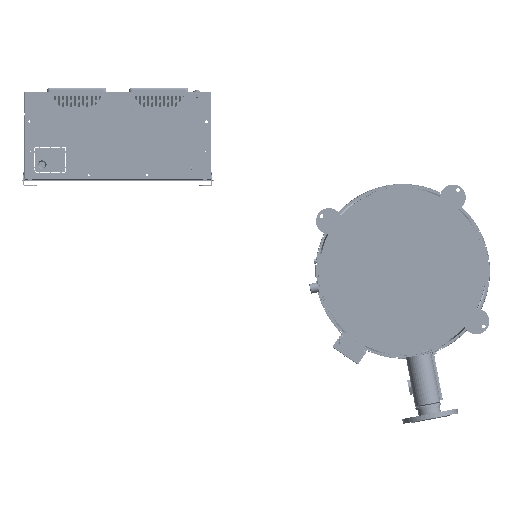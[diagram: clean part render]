
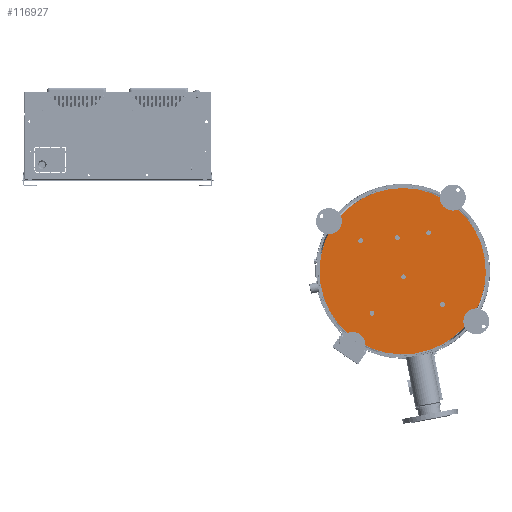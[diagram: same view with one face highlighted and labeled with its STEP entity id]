
A CAD part, front view. The second image highlights one B-rep face of the part: STEP entity #116927.
In plain terms, the highlighted planar face has unit normal (0, -1, 0).
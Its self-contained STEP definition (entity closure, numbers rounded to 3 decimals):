
#4999=FACE_BOUND('',#39986,.T.);
#5000=FACE_BOUND('',#39987,.T.);
#5001=FACE_BOUND('',#39988,.T.);
#5002=FACE_BOUND('',#39989,.T.);
#5003=FACE_BOUND('',#39990,.T.);
#5004=FACE_BOUND('',#39991,.T.);
#7541=PLANE('',#126281);
#16641=LINE('',#188814,#27003);
#16642=LINE('',#188817,#27004);
#27003=VECTOR('',#153690,10.);
#27004=VECTOR('',#153693,10.);
#32955=FACE_OUTER_BOUND('',#39985,.T.);
#39985=EDGE_LOOP('',(#99701,#99702,#99703));
#39986=EDGE_LOOP('',(#99704));
#39987=EDGE_LOOP('',(#99705,#99706));
#39988=EDGE_LOOP('',(#99707,#99708));
#39989=EDGE_LOOP('',(#99709,#99710));
#39990=EDGE_LOOP('',(#99711,#99712));
#39991=EDGE_LOOP('',(#99713,#99714));
#45697=CIRCLE('',#126282,288.);
#45698=CIRCLE('',#126283,8.25);
#45699=CIRCLE('',#126284,8.25);
#45700=CIRCLE('',#126285,8.25);
#45701=CIRCLE('',#126286,8.25);
#45702=CIRCLE('',#126287,8.25);
#45703=CIRCLE('',#126288,8.25);
#45704=CIRCLE('',#126289,8.25);
#45705=CIRCLE('',#126290,8.25);
#45706=CIRCLE('',#126291,8.25);
#45707=CIRCLE('',#126292,8.25);
#45708=CIRCLE('',#126293,8.25);
#56217=VERTEX_POINT('',#188812);
#56218=VERTEX_POINT('',#188813);
#56219=VERTEX_POINT('',#188815);
#56220=VERTEX_POINT('',#188818);
#56221=VERTEX_POINT('',#188820);
#56222=VERTEX_POINT('',#188821);
#56223=VERTEX_POINT('',#188824);
#56224=VERTEX_POINT('',#188825);
#56225=VERTEX_POINT('',#188828);
#56226=VERTEX_POINT('',#188829);
#56227=VERTEX_POINT('',#188832);
#56228=VERTEX_POINT('',#188833);
#56229=VERTEX_POINT('',#188836);
#56230=VERTEX_POINT('',#188837);
#72100=EDGE_CURVE('',#56217,#56218,#16641,.T.);
#72101=EDGE_CURVE('',#56218,#56219,#45697,.T.);
#72102=EDGE_CURVE('',#56219,#56217,#16642,.T.);
#72103=EDGE_CURVE('',#56220,#56220,#45698,.T.);
#72104=EDGE_CURVE('',#56221,#56222,#45699,.T.);
#72105=EDGE_CURVE('',#56222,#56221,#45700,.T.);
#72106=EDGE_CURVE('',#56223,#56224,#45701,.T.);
#72107=EDGE_CURVE('',#56224,#56223,#45702,.T.);
#72108=EDGE_CURVE('',#56225,#56226,#45703,.T.);
#72109=EDGE_CURVE('',#56226,#56225,#45704,.T.);
#72110=EDGE_CURVE('',#56227,#56228,#45705,.T.);
#72111=EDGE_CURVE('',#56228,#56227,#45706,.T.);
#72112=EDGE_CURVE('',#56229,#56230,#45707,.T.);
#72113=EDGE_CURVE('',#56230,#56229,#45708,.T.);
#99701=ORIENTED_EDGE('',*,*,#72100,.T.);
#99702=ORIENTED_EDGE('',*,*,#72101,.T.);
#99703=ORIENTED_EDGE('',*,*,#72102,.T.);
#99704=ORIENTED_EDGE('',*,*,#72103,.T.);
#99705=ORIENTED_EDGE('',*,*,#72104,.T.);
#99706=ORIENTED_EDGE('',*,*,#72105,.T.);
#99707=ORIENTED_EDGE('',*,*,#72106,.T.);
#99708=ORIENTED_EDGE('',*,*,#72107,.T.);
#99709=ORIENTED_EDGE('',*,*,#72108,.T.);
#99710=ORIENTED_EDGE('',*,*,#72109,.T.);
#99711=ORIENTED_EDGE('',*,*,#72110,.T.);
#99712=ORIENTED_EDGE('',*,*,#72111,.T.);
#99713=ORIENTED_EDGE('',*,*,#72112,.T.);
#99714=ORIENTED_EDGE('',*,*,#72113,.T.);
#116927=ADVANCED_FACE('',(#32955,#4999,#5000,#5001,#5002,#5003,#5004),#7541,
 .T.);
#126281=AXIS2_PLACEMENT_3D('',#188811,#153688,#153689);
#126282=AXIS2_PLACEMENT_3D('',#188816,#153691,#153692);
#126283=AXIS2_PLACEMENT_3D('',#188819,#153694,#153695);
#126284=AXIS2_PLACEMENT_3D('',#188822,#153696,#153697);
#126285=AXIS2_PLACEMENT_3D('',#188823,#153698,#153699);
#126286=AXIS2_PLACEMENT_3D('',#188826,#153700,#153701);
#126287=AXIS2_PLACEMENT_3D('',#188827,#153702,#153703);
#126288=AXIS2_PLACEMENT_3D('',#188830,#153704,#153705);
#126289=AXIS2_PLACEMENT_3D('',#188831,#153706,#153707);
#126290=AXIS2_PLACEMENT_3D('',#188834,#153708,#153709);
#126291=AXIS2_PLACEMENT_3D('',#188835,#153710,#153711);
#126292=AXIS2_PLACEMENT_3D('',#188838,#153712,#153713);
#126293=AXIS2_PLACEMENT_3D('',#188839,#153714,#153715);
#153688=DIRECTION('center_axis',(0.,-1.,0.));
#153689=DIRECTION('ref_axis',(0.988,0.,0.155));
#153690=DIRECTION('',(0.589,0.,0.808));
#153691=DIRECTION('center_axis',(0.,-1.,0.));
#153692=DIRECTION('ref_axis',(0.988,0.,0.155));
#153693=DIRECTION('',(-0.808,0.,0.589));
#153694=DIRECTION('center_axis',(0.,1.,0.));
#153695=DIRECTION('ref_axis',(-0.988,0.,-0.155));
#153696=DIRECTION('center_axis',(0.,1.,0.));
#153697=DIRECTION('ref_axis',(-0.988,0.,-0.155));
#153698=DIRECTION('center_axis',(0.,1.,0.));
#153699=DIRECTION('ref_axis',(-0.988,0.,-0.155));
#153700=DIRECTION('center_axis',(0.,1.,0.));
#153701=DIRECTION('ref_axis',(-0.988,0.,-0.155));
#153702=DIRECTION('center_axis',(0.,1.,0.));
#153703=DIRECTION('ref_axis',(-0.988,0.,-0.155));
#153704=DIRECTION('center_axis',(0.,1.,0.));
#153705=DIRECTION('ref_axis',(-0.988,0.,-0.155));
#153706=DIRECTION('center_axis',(0.,1.,0.));
#153707=DIRECTION('ref_axis',(-0.988,0.,-0.155));
#153708=DIRECTION('center_axis',(0.,1.,0.));
#153709=DIRECTION('ref_axis',(-0.988,0.,-0.155));
#153710=DIRECTION('center_axis',(0.,1.,0.));
#153711=DIRECTION('ref_axis',(-0.988,0.,-0.155));
#153712=DIRECTION('center_axis',(0.,1.,0.));
#153713=DIRECTION('ref_axis',(-0.988,0.,-0.155));
#153714=DIRECTION('center_axis',(0.,1.,0.));
#153715=DIRECTION('ref_axis',(-0.988,0.,-0.155));
#188811=CARTESIAN_POINT('Origin',(1179.819,102.437,-328.717));
#188812=CARTESIAN_POINT('',(1461.342,102.437,-284.434));
#188813=CARTESIAN_POINT('',(1463.839,102.437,-281.004));
#188814=CARTESIAN_POINT('',(1402.032,102.437,-365.885));
#188815=CARTESIAN_POINT('',(1464.771,102.437,-286.931));
#188816=CARTESIAN_POINT('Origin',(1179.819,102.437,-328.717));
#188817=CARTESIAN_POINT('',(1381.605,102.437,-226.373));
#188818=CARTESIAN_POINT('',(1261.301,102.437,-196.632));
#188819=CARTESIAN_POINT('Origin',(1269.45,102.437,-195.35));
#188820=CARTESIAN_POINT('',(1153.361,102.437,-213.611));
#188821=CARTESIAN_POINT('',(1169.661,102.437,-211.047));
#188822=CARTESIAN_POINT('Origin',(1161.511,102.437,-212.329));
#188823=CARTESIAN_POINT('Origin',(1161.511,102.437,-212.329));
#188824=CARTESIAN_POINT('',(1065.714,102.437,-475.51));
#188825=CARTESIAN_POINT('',(1082.013,102.437,-472.946));
#188826=CARTESIAN_POINT('Origin',(1073.864,102.437,-474.228));
#188827=CARTESIAN_POINT('Origin',(1073.864,102.437,-474.228));
#188828=CARTESIAN_POINT('',(1026.158,102.437,-224.044));
#188829=CARTESIAN_POINT('',(1042.458,102.437,-221.48));
#188830=CARTESIAN_POINT('Origin',(1034.308,102.437,-222.762));
#188831=CARTESIAN_POINT('Origin',(1034.308,102.437,-222.762));
#188832=CARTESIAN_POINT('',(1309.952,102.437,-445.228));
#188833=CARTESIAN_POINT('',(1326.252,102.437,-442.664));
#188834=CARTESIAN_POINT('Origin',(1318.102,102.437,-443.946));
#188835=CARTESIAN_POINT('Origin',(1318.102,102.437,-443.946));
#188836=CARTESIAN_POINT('',(1174.708,102.437,-349.32));
#188837=CARTESIAN_POINT('',(1191.008,102.437,-346.756));
#188838=CARTESIAN_POINT('Origin',(1182.858,102.437,-348.038));
#188839=CARTESIAN_POINT('Origin',(1182.858,102.437,-348.038));
